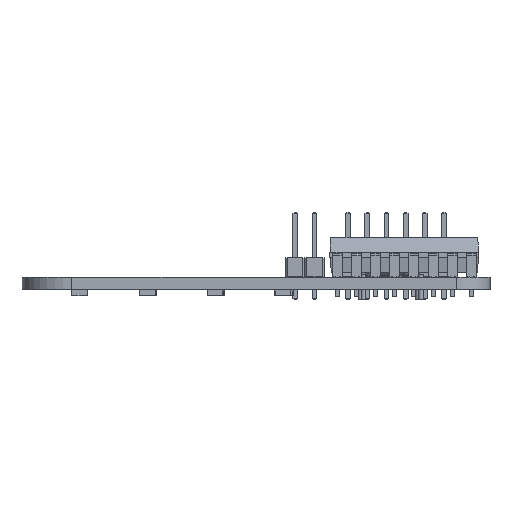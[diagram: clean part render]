
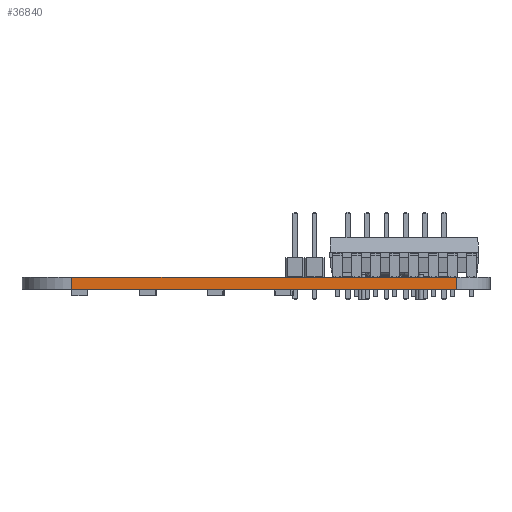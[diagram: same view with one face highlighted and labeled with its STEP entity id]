
A CAD part, left-side view. The second image highlights one B-rep face of the part: STEP entity #36840.
In plain terms, the highlighted planar face has unit normal (-1, 0, 0).
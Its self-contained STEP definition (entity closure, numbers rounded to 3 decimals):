
#30577 = CYLINDRICAL_SURFACE('',#30578,4.445);
#30578 = AXIS2_PLACEMENT_3D('',#30579,#30580,#30581);
#30579 = CARTESIAN_POINT('',(109.347,-153.035,0.));
#30580 = DIRECTION('',(0.,0.,-1.));
#30581 = DIRECTION('',(1.,0.,0.));
#30605 = PLANE('',#30606);
#30606 = AXIS2_PLACEMENT_3D('',#30607,#30608,#30609);
#30607 = CARTESIAN_POINT('',(157.572,-126.59,1.6));
#30608 = DIRECTION('',(0.,0.,1.));
#30609 = DIRECTION('',(1.,0.,0.));
#30659 = PLANE('',#30660);
#30660 = AXIS2_PLACEMENT_3D('',#30661,#30662,#30663);
#30661 = CARTESIAN_POINT('',(157.572,-126.59,0.));
#30662 = DIRECTION('',(0.,0.,1.));
#30663 = DIRECTION('',(1.,0.,0.));
#30674 = EDGE_CURVE('',#30675,#30677,#30679,.T.);
#30675 = VERTEX_POINT('',#30676);
#30676 = CARTESIAN_POINT('',(104.902,-153.035,0.));
#30677 = VERTEX_POINT('',#30678);
#30678 = CARTESIAN_POINT('',(104.902,-153.035,1.6));
#30679 = SURFACE_CURVE('',#30680,(#30684,#30691),.PCURVE_S1.);
#30680 = LINE('',#30681,#30682);
#30681 = CARTESIAN_POINT('',(104.902,-153.035,0.));
#30682 = VECTOR('',#30683,1.);
#30683 = DIRECTION('',(0.,0.,1.));
#30684 = PCURVE('',#30577,#30685);
#30685 = DEFINITIONAL_REPRESENTATION('',(#30686),#30690);
#30686 = LINE('',#30687,#30688);
#30687 = CARTESIAN_POINT('',(-3.142,0.));
#30688 = VECTOR('',#30689,1.);
#30689 = DIRECTION('',(0.,-1.));
#30690 = ( GEOMETRIC_REPRESENTATION_CONTEXT(2) 
PARAMETRIC_REPRESENTATION_CONTEXT() REPRESENTATION_CONTEXT('2D SPACE',''
  ) );
#30691 = PCURVE('',#30692,#30697);
#30692 = PLANE('',#30693);
#30693 = AXIS2_PLACEMENT_3D('',#30694,#30695,#30696);
#30694 = CARTESIAN_POINT('',(104.902,-102.108,0.));
#30695 = DIRECTION('',(1.,0.,0.));
#30696 = DIRECTION('',(0.,-1.,0.));
#30697 = DEFINITIONAL_REPRESENTATION('',(#30698),#30702);
#30698 = LINE('',#30699,#30700);
#30699 = CARTESIAN_POINT('',(50.927,0.));
#30700 = VECTOR('',#30701,1.);
#30701 = DIRECTION('',(0.,-1.));
#30702 = ( GEOMETRIC_REPRESENTATION_CONTEXT(2) 
PARAMETRIC_REPRESENTATION_CONTEXT() REPRESENTATION_CONTEXT('2D SPACE',''
  ) );
#30913 = VERTEX_POINT('',#30914);
#30914 = CARTESIAN_POINT('',(104.902,-102.108,0.));
#30929 = CYLINDRICAL_SURFACE('',#30930,6.604);
#30930 = AXIS2_PLACEMENT_3D('',#30931,#30932,#30933);
#30931 = CARTESIAN_POINT('',(111.506,-102.108,0.));
#30932 = DIRECTION('',(0.,0.,-1.));
#30933 = DIRECTION('',(1.,0.,0.));
#30941 = EDGE_CURVE('',#30913,#30675,#30942,.T.);
#30942 = SURFACE_CURVE('',#30943,(#30947,#30954),.PCURVE_S1.);
#30943 = LINE('',#30944,#30945);
#30944 = CARTESIAN_POINT('',(104.902,-102.108,0.));
#30945 = VECTOR('',#30946,1.);
#30946 = DIRECTION('',(0.,-1.,0.));
#30947 = PCURVE('',#30659,#30948);
#30948 = DEFINITIONAL_REPRESENTATION('',(#30949),#30953);
#30949 = LINE('',#30950,#30951);
#30950 = CARTESIAN_POINT('',(-52.67,24.482));
#30951 = VECTOR('',#30952,1.);
#30952 = DIRECTION('',(0.,-1.));
#30953 = ( GEOMETRIC_REPRESENTATION_CONTEXT(2) 
PARAMETRIC_REPRESENTATION_CONTEXT() REPRESENTATION_CONTEXT('2D SPACE',''
  ) );
#30954 = PCURVE('',#30692,#30955);
#30955 = DEFINITIONAL_REPRESENTATION('',(#30956),#30960);
#30956 = LINE('',#30957,#30958);
#30957 = CARTESIAN_POINT('',(0.,0.));
#30958 = VECTOR('',#30959,1.);
#30959 = DIRECTION('',(1.,0.));
#30960 = ( GEOMETRIC_REPRESENTATION_CONTEXT(2) 
PARAMETRIC_REPRESENTATION_CONTEXT() REPRESENTATION_CONTEXT('2D SPACE',''
  ) );
#34170 = VERTEX_POINT('',#34171);
#34171 = CARTESIAN_POINT('',(104.902,-102.108,1.6));
#34193 = EDGE_CURVE('',#34170,#30677,#34194,.T.);
#34194 = SURFACE_CURVE('',#34195,(#34199,#34206),.PCURVE_S1.);
#34195 = LINE('',#34196,#34197);
#34196 = CARTESIAN_POINT('',(104.902,-102.108,1.6));
#34197 = VECTOR('',#34198,1.);
#34198 = DIRECTION('',(0.,-1.,0.));
#34199 = PCURVE('',#30605,#34200);
#34200 = DEFINITIONAL_REPRESENTATION('',(#34201),#34205);
#34201 = LINE('',#34202,#34203);
#34202 = CARTESIAN_POINT('',(-52.67,24.482));
#34203 = VECTOR('',#34204,1.);
#34204 = DIRECTION('',(0.,-1.));
#34205 = ( GEOMETRIC_REPRESENTATION_CONTEXT(2) 
PARAMETRIC_REPRESENTATION_CONTEXT() REPRESENTATION_CONTEXT('2D SPACE',''
  ) );
#34206 = PCURVE('',#30692,#34207);
#34207 = DEFINITIONAL_REPRESENTATION('',(#34208),#34212);
#34208 = LINE('',#34209,#34210);
#34209 = CARTESIAN_POINT('',(0.,-1.6));
#34210 = VECTOR('',#34211,1.);
#34211 = DIRECTION('',(1.,0.));
#34212 = ( GEOMETRIC_REPRESENTATION_CONTEXT(2) 
PARAMETRIC_REPRESENTATION_CONTEXT() REPRESENTATION_CONTEXT('2D SPACE',''
  ) );
#36840 = ADVANCED_FACE('',(#36841),#30692,.F.);
#36841 = FACE_BOUND('',#36842,.F.);
#36842 = EDGE_LOOP('',(#36843,#36864,#36865,#36866));
#36843 = ORIENTED_EDGE('',*,*,#36844,.T.);
#36844 = EDGE_CURVE('',#30913,#34170,#36845,.T.);
#36845 = SURFACE_CURVE('',#36846,(#36850,#36857),.PCURVE_S1.);
#36846 = LINE('',#36847,#36848);
#36847 = CARTESIAN_POINT('',(104.902,-102.108,0.));
#36848 = VECTOR('',#36849,1.);
#36849 = DIRECTION('',(0.,0.,1.));
#36850 = PCURVE('',#30692,#36851);
#36851 = DEFINITIONAL_REPRESENTATION('',(#36852),#36856);
#36852 = LINE('',#36853,#36854);
#36853 = CARTESIAN_POINT('',(0.,0.));
#36854 = VECTOR('',#36855,1.);
#36855 = DIRECTION('',(0.,-1.));
#36856 = ( GEOMETRIC_REPRESENTATION_CONTEXT(2) 
PARAMETRIC_REPRESENTATION_CONTEXT() REPRESENTATION_CONTEXT('2D SPACE',''
  ) );
#36857 = PCURVE('',#30929,#36858);
#36858 = DEFINITIONAL_REPRESENTATION('',(#36859),#36863);
#36859 = LINE('',#36860,#36861);
#36860 = CARTESIAN_POINT('',(-3.142,0.));
#36861 = VECTOR('',#36862,1.);
#36862 = DIRECTION('',(0.,-1.));
#36863 = ( GEOMETRIC_REPRESENTATION_CONTEXT(2) 
PARAMETRIC_REPRESENTATION_CONTEXT() REPRESENTATION_CONTEXT('2D SPACE',''
  ) );
#36864 = ORIENTED_EDGE('',*,*,#34193,.T.);
#36865 = ORIENTED_EDGE('',*,*,#30674,.F.);
#36866 = ORIENTED_EDGE('',*,*,#30941,.F.);
